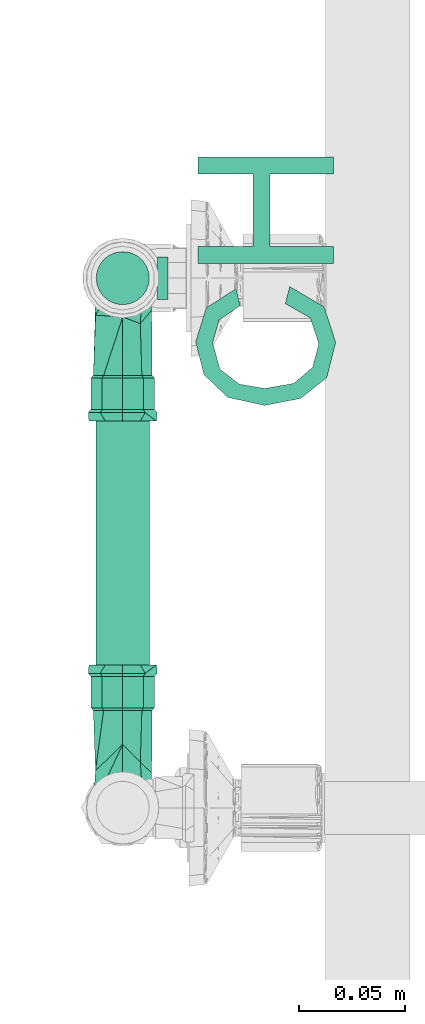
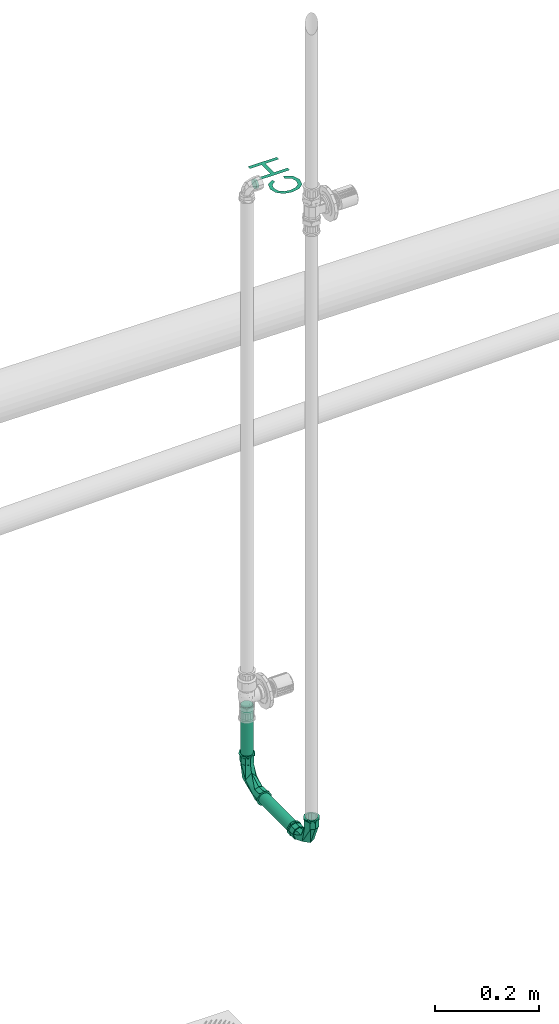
# One storey, part 93 of 589: 2 flow fittings, 2 flow segments, 1 flow terminal.
"""IFC2X3 building model written with IfcOpenShell, lengths in millimetres."""

from ifc_helpers import new_model, entity, si_unit, converted_unit, derived_unit, direction, frame, origin, origin_2d_with_axis, place, context, subcontext, project, spatial, circle, extrude, face_set, faceted_brep, surface_model, source, transform, mapped, material, type_object, type_shapes, element, save


model = new_model("IFC2X3")

# Units and contexts
model_context = context("Model", 3, precision=0.01, world=origin(), true_north=direction((6.123031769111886e-17, 1.0)))
body_context = subcontext(model_context, "Body", "Model", "MODEL_VIEW")
ifc_project = project(units=[si_unit("LENGTHUNIT", "METRE", prefix="MILLI"), si_unit("AREAUNIT", "SQUARE_METRE"), si_unit("VOLUMEUNIT", "CUBIC_METRE"), converted_unit("PLANEANGLEUNIT", "DEGREE", entity("IfcRatioMeasure", 0.017453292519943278), si_unit("PLANEANGLEUNIT", "RADIAN"), dimensions=[0, 0, 0, 0, 0, 0, 0]), si_unit("MASSUNIT", "GRAM", prefix="KILO"), derived_unit("MASSDENSITYUNIT", [(si_unit("MASSUNIT", "GRAM", prefix="KILO"), 1), (si_unit("LENGTHUNIT", "METRE"), -3)]), derived_unit("IONCONCENTRATIONUNIT", [(si_unit("MASSUNIT", "GRAM", prefix="KILO"), 1), (si_unit("LENGTHUNIT", "METRE"), -3)]), derived_unit("MOMENTOFINERTIAUNIT", [(si_unit("LENGTHUNIT", "METRE"), 4)]), si_unit("TIMEUNIT", "SECOND"), si_unit("FREQUENCYUNIT", "HERTZ"), si_unit("THERMODYNAMICTEMPERATUREUNIT", "DEGREE_CELSIUS"), derived_unit("THERMALTRANSMITTANCEUNIT", [(si_unit("MASSUNIT", "GRAM", prefix="KILO"), 1), (si_unit("THERMODYNAMICTEMPERATUREUNIT", "KELVIN"), -1), (si_unit("TIMEUNIT", "SECOND"), -3)]), derived_unit("THERMALCONDUCTANCEUNIT", [(si_unit("MASSUNIT", "GRAM", prefix="KILO"), 1), (si_unit("THERMODYNAMICTEMPERATUREUNIT", "KELVIN"), -1), (si_unit("TIMEUNIT", "SECOND"), -3), (si_unit("LENGTHUNIT", "METRE"), 1)]), derived_unit("VOLUMETRICFLOWRATEUNIT", [(si_unit("LENGTHUNIT", "METRE"), 3), (si_unit("TIMEUNIT", "SECOND"), -1)]), derived_unit("MASSFLOWRATEUNIT", [(si_unit("MASSUNIT", "GRAM", prefix="KILO"), 1), (si_unit("TIMEUNIT", "SECOND"), -1)]), derived_unit("ROTATIONALFREQUENCYUNIT", [(si_unit("TIMEUNIT", "SECOND"), -1)]), si_unit("ELECTRICCURRENTUNIT", "AMPERE"), si_unit("ELECTRICVOLTAGEUNIT", "VOLT"), si_unit("POWERUNIT", "WATT"), si_unit("FORCEUNIT", "NEWTON", prefix="KILO"), si_unit("ILLUMINANCEUNIT", "LUX"), si_unit("LUMINOUSFLUXUNIT", "LUMEN"), si_unit("LUMINOUSINTENSITYUNIT", "CANDELA"), derived_unit("USERDEFINED", [(si_unit("MASSUNIT", "GRAM", prefix="KILO"), -1), (si_unit("LENGTHUNIT", "METRE"), -2), (si_unit("TIMEUNIT", "SECOND"), 3), (si_unit("LUMINOUSFLUXUNIT", "LUMEN"), 1)]), derived_unit("USERDEFINED", [(si_unit("MASSUNIT", "GRAM", prefix="KILO"), 1), (si_unit("TIMEUNIT", "SECOND"), -3), (si_unit("LENGTHUNIT", "METRE"), 3), (si_unit("ELECTRICCURRENTUNIT", "AMPERE"), -2)]), derived_unit("SOUNDPOWERUNIT", [(si_unit("MASSUNIT", "GRAM", prefix="KILO"), 1), (si_unit("TIMEUNIT", "SECOND"), -3), (si_unit("LENGTHUNIT", "METRE"), 2)]), derived_unit("SOUNDPRESSUREUNIT", [(si_unit("MASSUNIT", "GRAM", prefix="KILO"), 1), (si_unit("LENGTHUNIT", "METRE"), -1), (si_unit("TIMEUNIT", "SECOND"), -2)]), derived_unit("LINEARVELOCITYUNIT", [(si_unit("LENGTHUNIT", "METRE"), 1), (si_unit("TIMEUNIT", "SECOND"), -1)]), si_unit("PRESSUREUNIT", "PASCAL"), derived_unit("USERDEFINED", [(si_unit("MASSUNIT", "GRAM", prefix="KILO"), 1), (si_unit("LENGTHUNIT", "METRE"), -2), (si_unit("TIMEUNIT", "SECOND"), -2)]), derived_unit("LINEARFORCEUNIT", [(si_unit("MASSUNIT", "GRAM", prefix="KILO"), 1), (si_unit("TIMEUNIT", "SECOND"), -2)]), derived_unit("PLANARFORCEUNIT", [(si_unit("MASSUNIT", "GRAM", prefix="KILO"), 1), (si_unit("LENGTHUNIT", "METRE"), -1), (si_unit("TIMEUNIT", "SECOND"), -2)]), derived_unit("SPECIFICHEATCAPACITYUNIT", [(si_unit("THERMODYNAMICTEMPERATUREUNIT", "KELVIN"), -1), (si_unit("LENGTHUNIT", "METRE"), 2), (si_unit("TIMEUNIT", "SECOND"), -2)]), derived_unit("HEATINGVALUEUNIT", [(si_unit("LENGTHUNIT", "METRE"), 2), (si_unit("TIMEUNIT", "SECOND"), -2)]), derived_unit("VAPORPERMEABILITYUNIT", [(si_unit("LENGTHUNIT", "METRE"), -1), (si_unit("TIMEUNIT", "SECOND"), 1)]), derived_unit("DYNAMICVISCOSITYUNIT", [(si_unit("MASSUNIT", "GRAM", prefix="KILO"), 1), (si_unit("TIMEUNIT", "SECOND"), -1), (si_unit("LENGTHUNIT", "METRE"), -1)]), derived_unit("THERMALEXPANSIONCOEFFICIENTUNIT", [(si_unit("THERMODYNAMICTEMPERATUREUNIT", "KELVIN"), -1)]), derived_unit("MODULUSOFELASTICITYUNIT", [(si_unit("MASSUNIT", "GRAM", prefix="KILO"), 1), (si_unit("LENGTHUNIT", "METRE"), -1), (si_unit("TIMEUNIT", "SECOND"), -2)]), derived_unit("ISOTHERMALMOISTURECAPACITYUNIT", [(si_unit("LENGTHUNIT", "METRE"), 3), (si_unit("MASSUNIT", "GRAM", prefix="KILO"), -1)]), derived_unit("MOISTUREDIFFUSIVITYUNIT", [(si_unit("TIMEUNIT", "SECOND"), -1), (si_unit("LENGTHUNIT", "METRE"), 2)])], contexts=[model_context])

# Site, building, storey
site_placement = place(None, origin())
site = spatial("IfcSite", under=ifc_project, at=site_placement, Name="Default", CompositionType="ELEMENT")
building_placement = place(site_placement, origin())
building = spatial("IfcBuilding", under=site, at=building_placement, CompositionType="ELEMENT")
storey_placement = place(building_placement, frame((0.0, 0.0, 100.0)))
storey = spatial("IfcBuildingStorey", under=building, at=storey_placement, Name="TÉRREO", CompositionType="ELEMENT", Elevation=100.0)

# Flow terminal
ifc_material_1 = material(Name="<Unnamed>")
distribution_element_type = type_object("IfcDistributionElementType", Name="Hidráulica_Ponto de Utilização_Uso Provável_Rodrigo MEP:Chuveiro Elétrico CH (Peso 0,1)", material=ifc_material_1)
shared_shape_1 = source(origin(), body_context, "Body", "SurfaceModel", [
    surface_model("IfcFaceBasedSurfaceModel", [(48.0, 23.749999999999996, 11.595272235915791), (41.21093749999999, 11.968749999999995, 11.595272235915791), (28.968749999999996, 8.0, 11.595272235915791), (17.9296875, 10.91406249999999, 11.595272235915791), (10.414062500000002, 19.718749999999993, 11.595272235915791), (8.0, 33.5, 11.595272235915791), (10.039062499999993, 45.39062499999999, 11.595272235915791), (17.109374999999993, 54.57812499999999, 11.595272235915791), (29.624999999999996, 58.0, 11.595272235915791), (40.43749999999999, 54.91406249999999, 11.595272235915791), (47.0, 45.078125, 11.595272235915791), (55.0, 46.98437499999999, 11.595272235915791), (45.96093749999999, 61.01562499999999, 11.595272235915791), (29.937499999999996, 66.0, 11.595272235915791), (14.562499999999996, 62.1484375, 11.595272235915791), (3.789062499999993, 50.87499999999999, 11.595272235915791), (0.0, 33.48437499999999, 11.595272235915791), (3.3515624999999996, 16.374999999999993, 11.595272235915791), (13.117187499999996, 4.203124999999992, 11.595272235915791), (29.765624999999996, 0.0, 11.595272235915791), (46.515625, 5.554687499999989, 11.595272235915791), (56.0, 21.687499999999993, 11.595272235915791), (67.0, 1.0, 11.595272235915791), (75.0, 1.0, 11.595272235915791), (75.0, 31.0, 11.595272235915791), (109.0, 31.0, 11.595272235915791), (109.0, 1.0, 11.595272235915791), (117.0, 1.0, 11.595272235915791), (117.0, 65.0, 11.595272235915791), (109.0, 65.0, 11.595272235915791), (109.0, 39.0, 11.595272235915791), (75.0, 39.0, 11.595272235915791), (75.0, 65.0, 11.595272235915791), (67.0, 65.0, 11.595272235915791), (50.0, 79.06704158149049, 11.595272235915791), (50.340741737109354, 79.06704158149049, 14.183462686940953), (51.33974596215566, 79.06704158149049, 16.59527223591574), (52.92893218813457, 79.06704158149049, 18.666340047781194), (55.0, 79.06704158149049, 20.25552627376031), (57.41180954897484, 79.06704158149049, 21.254530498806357), (60.0, 79.06704158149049, 21.595272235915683), (62.58819045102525, 79.06704158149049, 21.254530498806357), (65.0, 79.06704158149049, 20.255526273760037), (67.0710678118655, 79.06704158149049, 18.666340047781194), (68.66025403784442, 79.06704158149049, 16.59527223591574), (69.65925826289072, 79.06704158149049, 14.183462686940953), (70.0, 79.06704158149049, 11.595272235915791), (69.6592582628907, 79.06704158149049, 9.007081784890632), (68.66025403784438, 79.06704158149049, 6.5952722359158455), (67.07106781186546, 79.06704158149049, 4.524204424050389), (65.0, 79.06704158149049, 2.9350181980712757), (62.58819045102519, 79.06704158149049, 1.9360139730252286), (60.0, 79.06704158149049, 1.5952722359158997), (57.41180954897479, 79.06704158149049, 1.9360139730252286), (55.0, 79.06704158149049, 2.935018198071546), (52.928932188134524, 79.06704158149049, 4.524204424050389), (51.339745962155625, 79.06704158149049, 6.5952722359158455), (50.34074173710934, 79.06704158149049, 9.007081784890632), (50.0, 84.06704158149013, 11.595272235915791), (50.340741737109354, 84.06704158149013, 14.183462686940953), (51.33974596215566, 84.06704158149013, 16.59527223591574), (52.92893218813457, 84.06704158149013, 18.666340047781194), (55.0, 84.06704158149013, 20.25552627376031), (57.41180954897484, 84.06704158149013, 21.254530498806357), (60.0, 84.06704158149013, 21.595272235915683), (62.58819045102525, 84.06704158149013, 21.254530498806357), (65.0, 84.06704158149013, 20.255526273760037), (67.0710678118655, 84.06704158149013, 18.666340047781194), (68.66025403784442, 84.06704158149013, 16.59527223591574), (69.65925826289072, 84.06704158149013, 14.183462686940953), (70.0, 84.06704158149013, 11.595272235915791), (69.6592582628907, 84.06704158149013, 9.007081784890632), (68.66025403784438, 84.06704158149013, 6.5952722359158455), (67.07106781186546, 84.06704158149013, 4.524204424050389), (65.0, 84.06704158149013, 2.9350181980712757), (62.58819045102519, 84.06704158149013, 1.9360139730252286), (60.0, 84.06704158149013, 1.5952722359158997), (57.41180954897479, 84.06704158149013, 1.9360139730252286), (55.0, 84.06704158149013, 2.935018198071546), (52.928932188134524, 84.06704158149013, 4.524204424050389), (51.339745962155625, 84.06704158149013, 6.5952722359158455), (50.34074173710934, 84.06704158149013, 9.007081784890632)], [face_set([[[0, 1, 2, 3, 4, 5, 6, 7, 8, 9, 10, 11, 12, 13, 14, 15, 16, 17, 18, 19, 20, 21]], [[22, 23, 24, 25, 26, 27, 28, 29, 30, 31, 32, 33]]]), face_set([[[34, 35, 36, 37, 38, 39, 40, 41, 42, 43, 44, 45, 46, 47, 48, 49, 50, 51, 52, 53, 54, 55, 56, 57]], [[58, 59, 60, 61, 62, 63, 64, 65, 66, 67, 68, 69, 70, 71, 72, 73, 74, 75, 76, 77, 78, 79, 80, 81]], [[58, 81, 57, 34]], [[81, 80, 56, 57]], [[79, 78, 54, 55]], [[80, 79, 55, 56]], [[78, 77, 53, 54]], [[52, 53, 77, 76]], [[76, 75, 51, 52]], [[75, 74, 50, 51]], [[73, 72, 48, 49]], [[74, 73, 49, 50]], [[72, 71, 47, 48]], [[46, 47, 71, 70]], [[70, 69, 45, 46]], [[69, 68, 44, 45]], [[67, 66, 42, 43]], [[68, 67, 43, 44]], [[66, 65, 41, 42]], [[40, 41, 65, 64]], [[64, 63, 39, 40]], [[63, 62, 38, 39]], [[61, 60, 36, 37]], [[62, 61, 37, 38]], [[60, 59, 35, 36]], [[34, 35, 59, 58]]])]),
])
type_shapes(distribution_element_type, [shared_shape_1])
flow_terminal_placement = place(storey_placement, frame((-7150.4453109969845, 947.7159451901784, 2088.4047277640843), z_axis=(0.0, 0.0, 1.0), x_axis=(0.0, 1.0, 0.0)))
element("IfcFlowTerminal", 1, at=flow_terminal_placement, inside=storey, type_object=distribution_element_type, material=ifc_material_1, Name="Hidráulica_Ponto de Utilização_Uso Provável_Rodrigo MEP:Chuveiro Elétrico CH (Peso 0,1)", ObjectType="Hidráulica_Ponto de Utilização_Uso Provável_Rodrigo MEP:Chuveiro Elétrico CH (Peso 0,1)", context=body_context, shape_type="MappedRepresentation", body=[
    mapped(shared_shape_1, transform((0.0, 0.0, 0.0), scale=1.0)),
])

# Flow segments
pipe_segment_type = type_object("IfcPipeSegmentType", Name="Tipos de tubos:PVC Marrom Soldável", PredefinedType="NOTDEFINED")
flow_segment_1_placement = place(storey_placement, origin())
element("IfcFlowSegment", 2, at=flow_segment_1_placement, inside=storey, type_object=pipe_segment_type, Name="Tipos de tubos:PVC Marrom Soldável", ObjectType="Tipos de tubos:PVC Marrom Soldável", context=body_context, shape_type="SweptSolid", body=[
    extrude(circle(Radius=12.5, at=origin_2d_with_axis()), frame((-7250.812352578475, 1007.7159451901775, 746.9900000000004)), (0.0, 0.0, 1.0), 134.00999999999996),
])
flow_segment_2_placement = place(storey_placement, origin())
element("IfcFlowSegment", 3, at=flow_segment_2_placement, inside=storey, type_object=pipe_segment_type, Name="Tipos de tubos:PVC Marrom Soldável", ObjectType="Tipos de tubos:PVC Marrom Soldável", context=body_context, shape_type="SweptSolid", body=[
    extrude(circle(Radius=12.5, at=origin_2d_with_axis()), frame((-7250.812352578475, 805.1090686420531, 700.0), z_axis=(0.0, 1.0, 0.0), x_axis=(-1.0, 0.0, 0.0)), (0.0, 0.0, 1.0), 155.61687654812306),
])

# Flow fittings
ifc_material_2 = material(Name="PVC Marrom")
pipe_fitting_type = type_object("IfcPipeFittingType", Name="PVC Marrom Soldável_Curva 45°_90°_Rodrigo MEP:Curva", PredefinedType="NOTDEFINED", material=ifc_material_2)
shared_shape_2 = source(origin(), body_context, "Body", "Brep", [
    faceted_brep([(-67.38999999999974, -4.270514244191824, -15.937776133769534), (-67.38999999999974, -3.2352380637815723, -12.074072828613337), (-67.38999999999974, 3.235238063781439, -12.074072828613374), (-67.38999999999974, -14.289419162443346, -8.249999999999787), (-67.38999999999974, 4.270514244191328, -15.937776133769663), (-67.38999999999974, -10.825317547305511, -6.249999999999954), (-67.38999999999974, -12.5, 0.0), (-67.38999999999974, -16.5, 0.0), (-67.38999999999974, -10.825317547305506, 6.249999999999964), (-67.38999999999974, -14.28941916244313, 8.24999999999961), (-67.38999999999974, -3.2352380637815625, 12.074072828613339), (-67.38999999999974, -4.270514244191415, 15.937776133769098), (-67.38999999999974, 3.23523806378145, 12.07407282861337), (-67.38999999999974, 4.27051424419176, 15.937776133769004), (-67.38999999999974, 10.825317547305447, 6.250000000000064), (-67.38999999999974, 14.289419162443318, 8.249999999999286), (-67.38999999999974, 16.500000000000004, 0.0), (-67.38999999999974, 12.5, 0.0), (-67.38999999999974, 14.289419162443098, -8.250000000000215), (-67.38999999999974, 10.82531754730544, -6.250000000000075), (-63.389999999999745, 16.5, 0.0), (-63.39000000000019, 12.63914207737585, 10.606700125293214), (-63.3900000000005, 2.8633833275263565, 16.249647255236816), (-63.390000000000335, -12.641802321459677, 10.603529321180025), (-63.389999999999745, -16.5, 0.0), (-63.39000000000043, -4.889209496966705, 13.426588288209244), (-63.38999999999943, -12.641802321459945, -10.603529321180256), (-63.38999999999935, -2.8674593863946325, -16.248928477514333), (-63.389999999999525, 12.63914207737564, -10.606700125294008), (-63.38999999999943, 4.885841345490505, -13.42781430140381), (-61.989999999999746, -15.1, 0.0), (-61.99000000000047, -11.569164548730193, 9.703835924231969), (16.49999999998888, 63.38999999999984, 0.0), (12.64180232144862, 63.390000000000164, 10.603529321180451), (15.09999999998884, 61.990000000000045, 0.0), (-61.990000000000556, -4.474367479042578, 12.287362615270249), (-61.99000000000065, 2.620429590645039, 14.870889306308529), (-61.99000000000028, 11.56673002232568, 9.706737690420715), (-61.98999999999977, 15.099999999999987, 0.0), (-61.9899999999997, 11.566730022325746, -9.706737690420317), (-61.989999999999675, 4.47128511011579, -12.288484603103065), (-61.989999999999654, -2.624159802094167, -14.870231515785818), (-61.989999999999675, -11.569164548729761, -9.703835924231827), (12.641802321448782, 63.39000000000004, -10.603529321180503), (-46.98999999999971, 11.566730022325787, 9.706737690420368), (-46.98999999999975, 15.100000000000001, 0.0), (-46.98999999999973, 2.620429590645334, 14.870889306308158), (-46.98999999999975, -15.099999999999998, 0.0), (-46.98999999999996, -11.569164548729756, 9.703835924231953), (-46.99000000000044, -4.474367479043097, 12.287362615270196), (-46.9899999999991, -11.569164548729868, -9.703835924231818), (-46.9899999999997, -2.624159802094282, -14.870231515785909), (-46.99000000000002, 11.566730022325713, -9.706737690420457), (-46.989999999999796, 4.471285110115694, -12.28848460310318), (-45.88999999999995, -2.4364789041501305, -13.82697257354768), (-45.889999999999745, 14.040000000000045, 0.0), (-45.88999999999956, 10.757024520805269, -9.022639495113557), (-45.88999999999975, 4.160272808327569, -11.424806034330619), (-45.889999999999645, -10.754760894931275, -9.025337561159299), (-45.88999999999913, -14.040000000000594, 0.0), (-45.89000000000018, -10.754760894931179, 9.025337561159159), (-45.890000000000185, -4.15740681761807, 11.425849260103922), (-45.890000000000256, 10.75702452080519, 9.022639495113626), (-45.89000000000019, 2.4399472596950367, 13.826360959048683), (-17.45161529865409, 17.451615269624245, 12.843264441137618), (-14.117491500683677, 4.637376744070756, 12.606776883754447), (-3.5130906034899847, 3.5130906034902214, 0.0), (-2.439947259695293, 45.89000000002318, 13.826360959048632), (-10.7570245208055, 45.890000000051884, 9.022639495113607), (-29.96499999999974, 18.307090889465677, 0.0), (10.754760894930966, 45.89000000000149, 9.025337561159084), (4.1574068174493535, 45.89000000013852, 11.425849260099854), (14.040000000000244, 45.88999999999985, 0.0), (-14.039999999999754, 45.88999999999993, 0.0), (-16.50793867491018, 15.12119401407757, -13.635559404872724), (-10.757024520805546, 45.88999999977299, -9.022639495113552), (-4.160272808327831, 45.88999999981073, -11.424806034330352), (2.436478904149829, 45.88999999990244, -13.826972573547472), (-21.46430585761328, 21.464304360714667, -8.268649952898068), (-8.332046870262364, 6.525167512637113, -11.161166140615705), (10.754760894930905, 45.88999999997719, -9.025337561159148), (11.566730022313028, 46.9899999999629, -9.706737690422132), (15.099999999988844, 46.99000000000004, 0.0), (2.6204295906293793, 46.98999999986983, -14.870889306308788), (-11.56916454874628, 46.989999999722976, -9.703835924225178), (-4.47436747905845, 46.98999999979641, -12.287362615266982), (-15.100000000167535, 46.98999999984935, 0.0), (-11.569164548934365, 46.990000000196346, 9.703835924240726), (-2.624159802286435, 46.990000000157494, 14.87023151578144), (11.566730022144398, 46.99000000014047, 9.706737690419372), (4.471285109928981, 46.99000000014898, 12.288484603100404), (11.566730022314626, 61.99000000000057, 9.706737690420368), (4.471285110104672, 61.99000000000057, 12.288484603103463), (-2.624159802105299, 61.99000000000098, 14.870231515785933), (-11.569164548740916, 61.99000000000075, 9.703835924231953), (-15.100000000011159, 61.99000000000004, 0.0), (-11.569164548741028, 61.990000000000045, -9.703835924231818), (-4.474367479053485, 61.989999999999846, -12.287362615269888), (2.6204295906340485, 61.989999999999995, -14.870889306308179), (11.566730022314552, 61.99000000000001, -9.706737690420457), (-12.639142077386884, 63.39000000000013, 10.606700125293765), (-16.500000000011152, 63.38999999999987, 0.0), (-2.863383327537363, 63.390000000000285, 16.249647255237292), (4.889209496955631, 63.39000000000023, 13.426588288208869), (2.867459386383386, 63.390000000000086, -16.24892847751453), (-12.639142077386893, 63.39, -10.606700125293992), (-4.885841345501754, 63.39000000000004, -13.42781430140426), (-4.270514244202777, 67.38999999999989, -15.937776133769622), (-3.2352380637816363, 67.38999999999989, -12.074072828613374), (3.235238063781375, 67.38999999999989, -12.074072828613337), (-14.289419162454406, 67.38999999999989, -8.249999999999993), (4.2705142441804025, 67.38999999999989, -15.937776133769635), (-10.825317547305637, 67.38999999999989, -6.250000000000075), (-12.500000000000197, 67.38999999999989, 0.0), (-16.500000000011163, 67.38999999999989, 0.0), (-10.825317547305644, 67.38999999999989, 6.250000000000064), (-14.289419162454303, 67.38999999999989, 8.250000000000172), (-3.2352380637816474, 67.38999999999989, 12.07407282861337), (-4.270514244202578, 67.38999999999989, 15.937776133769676), (3.2352380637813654, 67.38999999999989, 12.074072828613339), (4.270514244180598, 67.38999999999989, 15.937776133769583), (10.825317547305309, 67.38999999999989, 6.249999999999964), (14.289419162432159, 67.38999999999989, 8.249999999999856), (16.499999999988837, 67.38999999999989, 0.0), (12.499999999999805, 67.38999999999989, 0.0), (14.289419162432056, 67.38999999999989, -8.250000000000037), (10.825317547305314, 67.38999999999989, -6.249999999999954), (-46.98999999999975, -10.825317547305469, -6.2500000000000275), (-46.98999999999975, -12.5, 0.0), (-46.98999999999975, -10.825317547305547, 6.249999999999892), (-46.98999999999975, -3.235238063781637, 12.074072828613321), (-46.98999999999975, 3.2352380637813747, 12.07407282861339), (-46.98999999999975, 10.825317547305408, 6.250000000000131), (-46.98999999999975, 12.5, 0.0), (-46.98999999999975, 10.825317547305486, -6.249999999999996), (-46.98999999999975, 3.2352380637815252, -12.07407282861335), (-46.98999999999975, -3.2352380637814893, -12.07407282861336), (3.2352380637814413, 46.99000000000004, 12.074072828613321), (-3.2352380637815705, 46.99000000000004, 12.07407282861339), (-3.235238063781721, 46.99000000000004, -12.07407282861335), (3.235238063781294, 46.99000000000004, -12.07407282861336), (-10.825317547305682, 46.990000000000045, -6.249999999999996), (-12.500000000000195, 46.990000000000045, 0.0), (-10.825317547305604, 46.990000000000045, 6.250000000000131), (10.825317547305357, 46.99000000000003, 6.249999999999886), (12.499999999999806, 46.99000000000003, 0.0), (10.825317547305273, 46.99000000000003, -6.2500000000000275)], [[[0, 1, 2]], [[1, 0, 3]], [[2, 4, 0]], [[3, 5, 1]], [[3, 6, 5]], [[6, 3, 7]], [[8, 6, 7]], [[8, 7, 9]], [[9, 10, 8]], [[9, 11, 10]], [[10, 11, 12]], [[13, 12, 11]], [[13, 14, 12]], [[14, 13, 15]], [[16, 14, 15]], [[17, 14, 16]], [[18, 17, 16]], [[18, 19, 17]], [[19, 18, 4]], [[4, 2, 19]], [[16, 15, 20]], [[15, 21, 20]], [[21, 15, 13]], [[21, 13, 22]], [[23, 11, 9]], [[24, 9, 7]], [[11, 23, 25, 22]], [[23, 9, 24]], [[11, 22, 13]], [[7, 3, 24]], [[3, 26, 24]], [[26, 3, 0]], [[26, 0, 27]], [[28, 4, 18]], [[20, 18, 16]], [[4, 28, 29, 27]], [[28, 18, 20]], [[4, 27, 0]], [[30, 31, 23, 24]], [[32, 33, 34]], [[31, 35, 36, 22, 25, 23]], [[37, 38, 20, 21]], [[37, 21, 22, 36]], [[38, 39, 28, 20]], [[39, 40, 41, 27, 29, 28]], [[42, 30, 24, 26]], [[43, 32, 34]], [[42, 26, 27, 41]], [[38, 37, 44, 45]], [[44, 37, 36, 46]], [[31, 30, 47, 48]], [[31, 48, 49, 46, 36, 35]], [[30, 42, 50, 47]], [[50, 42, 41, 51]], [[39, 38, 45, 52]], [[39, 52, 53, 51, 41, 40]], [[53, 54, 51]], [[55, 56, 45]], [[45, 56, 52]], [[52, 57, 53]], [[58, 59, 50]], [[52, 56, 57]], [[50, 51, 58]], [[47, 50, 59]], [[54, 53, 57]], [[58, 51, 54]], [[59, 60, 48]], [[48, 47, 59]], [[60, 49, 48]], [[60, 61, 49]], [[61, 46, 49]], [[62, 55, 45]], [[62, 44, 63]], [[44, 62, 45]], [[46, 61, 63]], [[63, 44, 46]], [[63, 64, 62]], [[63, 65, 64]], [[66, 65, 60]], [[67, 68, 64]], [[62, 69, 55]], [[69, 62, 64]], [[65, 63, 61, 60]], [[60, 59, 66]], [[65, 70, 71, 67]], [[66, 72, 70]], [[64, 65, 67]], [[68, 73, 69]], [[68, 69, 64]], [[70, 65, 66]], [[56, 55, 69]], [[74, 75, 76, 77]], [[78, 74, 56]], [[79, 54, 74]], [[58, 54, 79]], [[59, 58, 66]], [[69, 78, 56]], [[80, 79, 77]], [[66, 58, 79]], [[74, 77, 79]], [[66, 80, 72]], [[66, 79, 80]], [[74, 78, 75]], [[74, 54, 57, 56]], [[78, 73, 75]], [[73, 78, 69]], [[72, 80, 81, 82]], [[83, 81, 80, 77]], [[84, 85, 83, 77, 76, 75]], [[75, 73, 86, 84]], [[73, 68, 87, 86]], [[88, 87, 68, 67]], [[89, 90, 88, 67, 71, 70]], [[70, 72, 82, 89]], [[34, 91, 89, 82]], [[89, 91, 92, 93, 88, 90]], [[94, 95, 86, 87]], [[94, 87, 88, 93]], [[95, 96, 84, 86]], [[84, 96, 97, 98, 83, 85]], [[99, 34, 82, 81]], [[99, 81, 83, 98]], [[94, 93, 100]], [[95, 94, 101]], [[101, 94, 100]], [[93, 102, 100]], [[91, 34, 33]], [[91, 33, 103]], [[92, 102, 93]], [[102, 92, 103]], [[92, 91, 103]], [[34, 99, 43]], [[104, 43, 99]], [[105, 106, 97]], [[99, 98, 104]], [[96, 95, 101]], [[105, 97, 96]], [[105, 96, 101]], [[98, 106, 104]], [[106, 98, 97]], [[107, 108, 109]], [[108, 107, 110]], [[109, 111, 107]], [[110, 112, 108]], [[110, 113, 112]], [[113, 110, 114]], [[115, 113, 114]], [[115, 114, 116]], [[116, 117, 115]], [[116, 118, 117]], [[117, 118, 119]], [[120, 119, 118]], [[120, 121, 119]], [[121, 120, 122]], [[123, 121, 122]], [[124, 121, 123]], [[125, 124, 123]], [[125, 126, 124]], [[126, 125, 111]], [[111, 109, 126]], [[123, 122, 32]], [[122, 33, 32]], [[33, 122, 120]], [[120, 102, 103, 33]], [[100, 118, 116]], [[101, 116, 114]], [[118, 100, 102]], [[100, 116, 101]], [[118, 102, 120]], [[114, 110, 101]], [[110, 105, 101]], [[105, 110, 107]], [[107, 104, 106, 105]], [[43, 111, 125]], [[32, 125, 123]], [[111, 43, 104]], [[43, 125, 32]], [[111, 104, 107]], [[127, 128, 129, 130, 131, 132, 133, 134, 135, 136]], [[129, 128, 6, 8]], [[130, 129, 8, 10]], [[10, 12, 131, 130]], [[137, 138, 117, 119]], [[132, 131, 12, 14]], [[133, 132, 14, 17]], [[134, 133, 17, 19]], [[135, 134, 19, 2]], [[2, 1, 136, 135]], [[139, 140, 109, 108]], [[127, 136, 1, 5]], [[128, 127, 5, 6]], [[139, 141, 142, 143, 138, 137, 144, 145, 146, 140]], [[121, 124, 145, 144]], [[119, 121, 144, 137]], [[115, 117, 138, 143]], [[113, 115, 143, 142]], [[112, 113, 142, 141]], [[108, 112, 141, 139]], [[126, 109, 140, 146]], [[124, 126, 146, 145]]]),
])
type_shapes(pipe_fitting_type, [shared_shape_2])
for number, where, z_axis, x_axis in (
    (4, (-7250.812352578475, 1007.7159451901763, 700.0), (-1.0, 0.0, 0.0), (0.0, 0.0, -1.0)),
    (5, (-7250.812352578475, 758.1190686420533, 700.0), (-1.0, 0.0, 0.0), (0.0, -1.0, 0.0)),
):
    element("IfcFlowFitting", number, at=place(storey_placement, frame(where, z_axis=z_axis, x_axis=x_axis)), inside=storey, type_object=pipe_fitting_type, material=ifc_material_2, Name="PVC Marrom Soldável_Curva 45°_90°_Rodrigo MEP:Curva", ObjectType="PVC Marrom Soldável_Curva 45°_90°_Rodrigo MEP:Curva", context=body_context, shape_type="MappedRepresentation", body=[
        mapped(shared_shape_2, transform((0.0, 0.0, 0.0), scale=1.0)),
    ])

save(model, "model.ifc")
